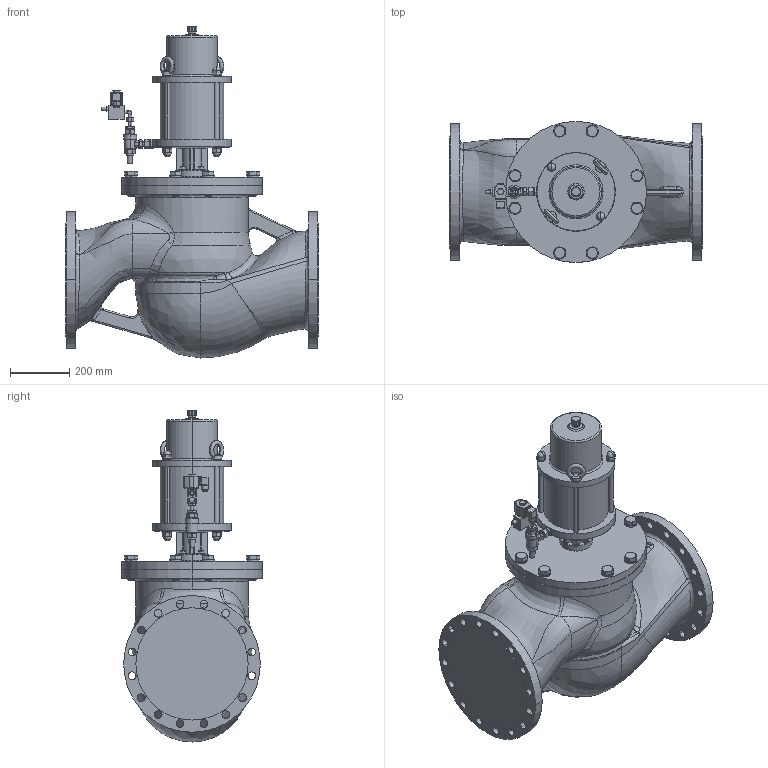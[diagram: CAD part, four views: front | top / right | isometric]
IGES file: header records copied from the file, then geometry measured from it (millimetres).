
Global section: file name: No Iges File Name specified; native system: AutoDesk Inventor R12.0; preprocessor: AutoDesk Inventor Iges Exporter R12.0; date: 20100210.153241; units: millimetre
Bounding box: 850 x 475 x 1118.05 mm (x, y, z)
Volume: 129409959.7 mm3; surface area: 2769301.5 mm2
Topology: 1 solids, 1 shells, 1555 faces, 4059 edges, 2467 vertices
Faces by surface type: plane 613, cylinder 313, bspline 307, cone 174, revolution 71, torus 48, sphere 29
